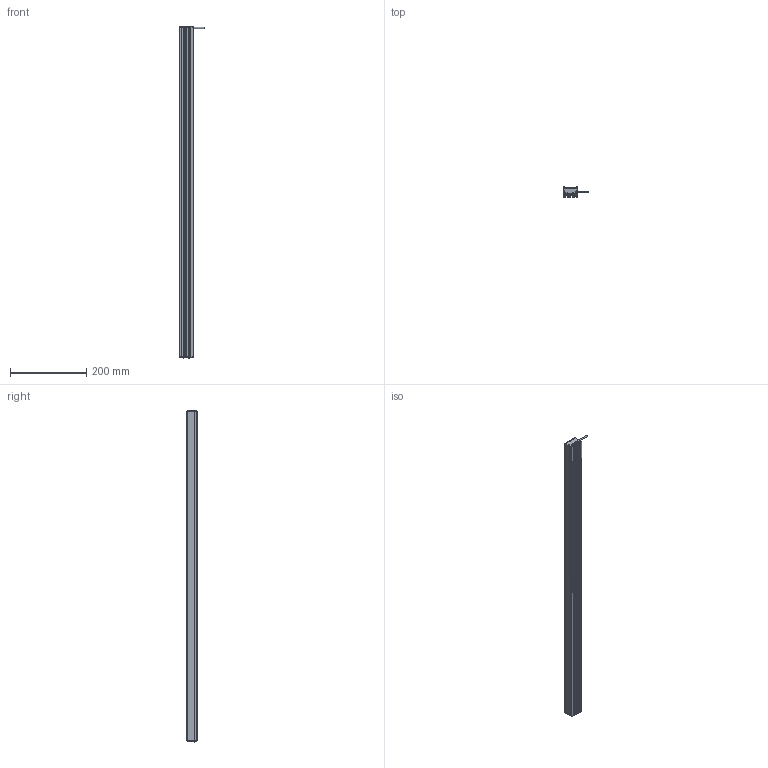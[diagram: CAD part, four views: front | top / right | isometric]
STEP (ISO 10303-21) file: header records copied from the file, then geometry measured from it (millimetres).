
FILE_DESCRIPTION((''),'2;1');
FILE_NAME('P-BL2-867-38_ASM','2019-06-19T',('Administrator'),(''),'PRO/ENGINEER BY PARAMETRIC TECHNOLOGY CORPORATION, 2010100','PRO/ENGINEER BY PARAMETRIC TECHNOLOGY CORPORATION, 2010100','');
FILE_SCHEMA(('CONFIG_CONTROL_DESIGN'));
Length unit declared in the file: millimetre
Products named in the file (6): BL-6; CEBAN; DUAN-6; MSB-6; M3-5; P-BL2-867-38_ASM
Assembly tree (9 placements, depth 2):
  P-BL2-867-38_ASM
    BL-6
    CEBAN
    DUAN-6  x2
    MSB-6
    M3-5  x4
Bounding box: 68 x 27 x 871.68 mm (x, y, z)
Volume: 337758.4 mm3; surface area: 304560.9 mm2
Topology: 9 solids, 17 shells, 509 faces, 1403 edges, 920 vertices
Faces by surface type: plane 371, cylinder 90, cone 16, bspline 16, torus 8, sphere 8
Entity records: 9561 total; most frequent: CARTESIAN_POINT 1875, ORIENTED_EDGE 1586, DIRECTION 1523, EDGE_CURVE 803, VECTOR 659, LINE 659, VERTEX_POINT 532, AXIS2_PLACEMENT_3D 432
